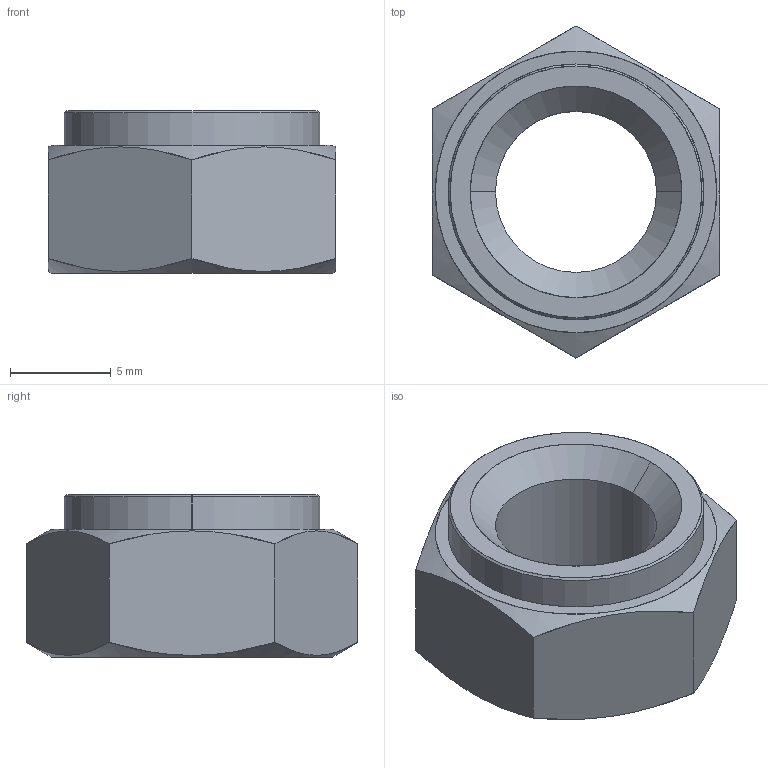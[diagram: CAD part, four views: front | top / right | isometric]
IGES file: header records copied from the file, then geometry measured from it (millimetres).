
Start section: SolidWorks IGES file using analytic representation for surfaces
Global section: file name: C:\Users\liam_\OneDrive\Desktop\Work\Mat Davis Pending 20181125\automotion\P SERIES\P0827.ZP_v2\P0827.ZP_v2_20181231_IGES\P0827.080-18G-ZP.igs; native system: SolidWorks 2017; preprocessor: SolidWorks 2017; author: liam_; date: 181231.110854; units: millimetre
Bounding box: 14.27 x 16.48 x 8.05 mm (x, y, z)
Surface area: 778.3 mm2 (no closed solid volume)
Topology: 0 solids, 0 shells, 23 faces, 424 edges, 424 vertices
Faces by surface type: revolution 14, bspline 9
